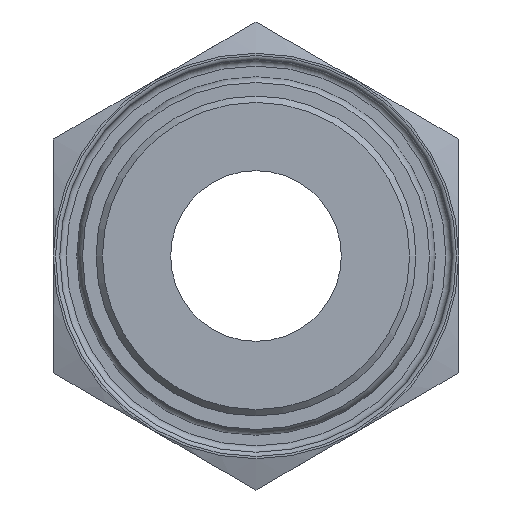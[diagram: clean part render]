
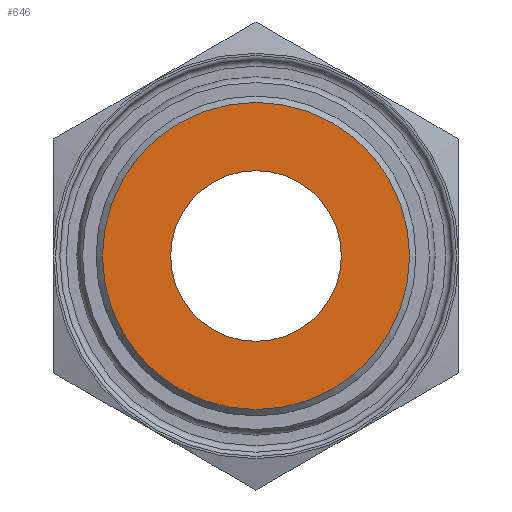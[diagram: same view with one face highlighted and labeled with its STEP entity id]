
A CAD part, front view. The second image highlights one B-rep face of the part: STEP entity #646.
In plain terms, the highlighted planar face has unit normal (0, -1, 0).
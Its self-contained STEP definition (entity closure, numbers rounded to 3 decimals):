
#72=FACE_BOUND('',#166,.T.);
#83=PLANE('',#794);
#116=FACE_OUTER_BOUND('',#165,.T.);
#165=EDGE_LOOP('',(#501));
#166=EDGE_LOOP('',(#502));
#258=CIRCLE('',#778,4.);
#266=CIRCLE('',#789,7.2);
#305=VERTEX_POINT('',#1123);
#313=VERTEX_POINT('',#1144);
#369=EDGE_CURVE('',#305,#305,#258,.T.);
#378=EDGE_CURVE('',#313,#313,#266,.T.);
#501=ORIENTED_EDGE('',*,*,#378,.F.);
#502=ORIENTED_EDGE('',*,*,#369,.T.);
#646=ADVANCED_FACE('',(#116,#72),#83,.T.);
#778=AXIS2_PLACEMENT_3D('',#1125,#914,#915);
#789=AXIS2_PLACEMENT_3D('',#1145,#937,#938);
#794=AXIS2_PLACEMENT_3D('',#1155,#949,#950);
#914=DIRECTION('center_axis',(0.,1.,0.));
#915=DIRECTION('ref_axis',(1.,0.,0.));
#937=DIRECTION('center_axis',(0.,1.,0.));
#938=DIRECTION('ref_axis',(-1.,0.,0.));
#949=DIRECTION('center_axis',(0.,-1.,0.));
#950=DIRECTION('ref_axis',(0.,0.,-1.));
#1123=CARTESIAN_POINT('',(-4.,-7.2,0.));
#1125=CARTESIAN_POINT('Origin',(0.,-7.2,0.));
#1144=CARTESIAN_POINT('',(7.2,-7.2,0.));
#1145=CARTESIAN_POINT('Origin',(0.,-7.2,0.));
#1155=CARTESIAN_POINT('Origin',(0.,-7.2,0.));
